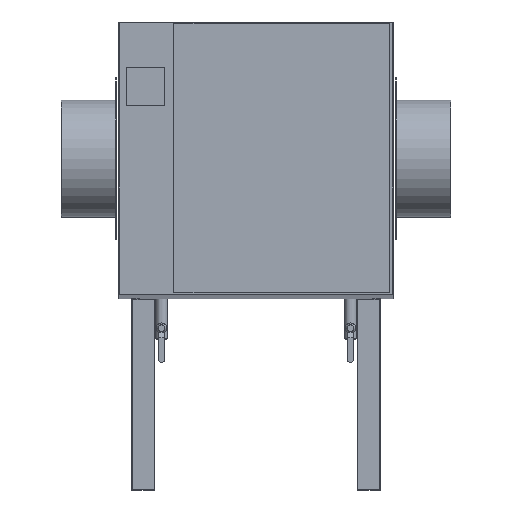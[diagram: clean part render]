
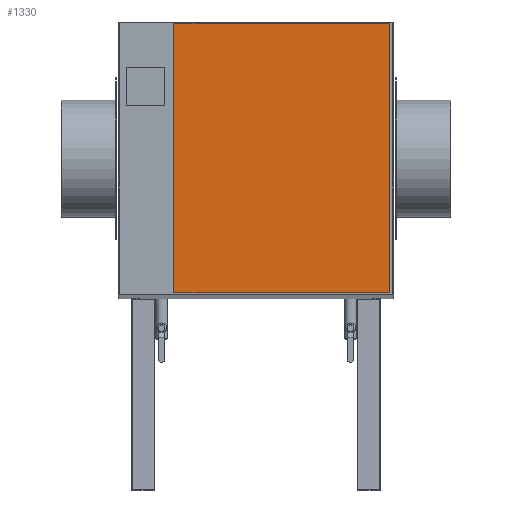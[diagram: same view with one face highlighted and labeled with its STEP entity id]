
A CAD part, top view. The second image highlights one B-rep face of the part: STEP entity #1330.
In plain terms, the highlighted planar face has unit normal (0, 0, 1).
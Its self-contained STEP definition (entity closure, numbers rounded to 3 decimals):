
#1251=DIRECTION('',(0.,1.,0.));
#1252=VECTOR('',#1251,705.);
#1253=CARTESIAN_POINT('',(350.,-352.5,330.));
#1254=LINE('',#1253,#1252);
#1255=DIRECTION('',(1.,0.,0.));
#1256=VECTOR('',#1255,565.);
#1257=CARTESIAN_POINT('',(-215.,-352.5,330.));
#1258=LINE('',#1257,#1256);
#1259=DIRECTION('',(0.,-1.,0.));
#1260=VECTOR('',#1259,705.);
#1261=CARTESIAN_POINT('',(-215.,352.5,330.));
#1262=LINE('',#1261,#1260);
#1263=DIRECTION('',(-1.,0.,0.));
#1264=VECTOR('',#1263,565.);
#1265=CARTESIAN_POINT('',(350.,352.5,330.));
#1266=LINE('',#1265,#1264);
#1299=CARTESIAN_POINT('',(350.,-352.5,330.));
#1300=CARTESIAN_POINT('',(350.,352.5,330.));
#1301=VERTEX_POINT('',#1299);
#1302=VERTEX_POINT('',#1300);
#1303=CARTESIAN_POINT('',(-215.,352.5,330.));
#1304=VERTEX_POINT('',#1303);
#1305=CARTESIAN_POINT('',(-215.,-352.5,330.));
#1306=VERTEX_POINT('',#1305);
#1315=CARTESIAN_POINT('',(-360.,0.,330.));
#1316=DIRECTION('',(0.,0.,1.));
#1317=DIRECTION('',(1.,0.,0.));
#1318=AXIS2_PLACEMENT_3D('',#1315,#1316,#1317);
#1319=PLANE('',#1318);
#1321=ORIENTED_EDGE('',*,*,#1320,.F.);
#1323=ORIENTED_EDGE('',*,*,#1322,.F.);
#1325=ORIENTED_EDGE('',*,*,#1324,.F.);
#1327=ORIENTED_EDGE('',*,*,#1326,.F.);
#1328=EDGE_LOOP('',(#1321,#1323,#1325,#1327));
#1329=FACE_OUTER_BOUND('',#1328,.F.);
#1320=EDGE_CURVE('',#1301,#1302,#1254,.T.);
#1322=EDGE_CURVE('',#1306,#1301,#1258,.T.);
#1324=EDGE_CURVE('',#1304,#1306,#1262,.T.);
#1326=EDGE_CURVE('',#1302,#1304,#1266,.T.);
#1330=ADVANCED_FACE('',(#1329),#1319,.T.);
